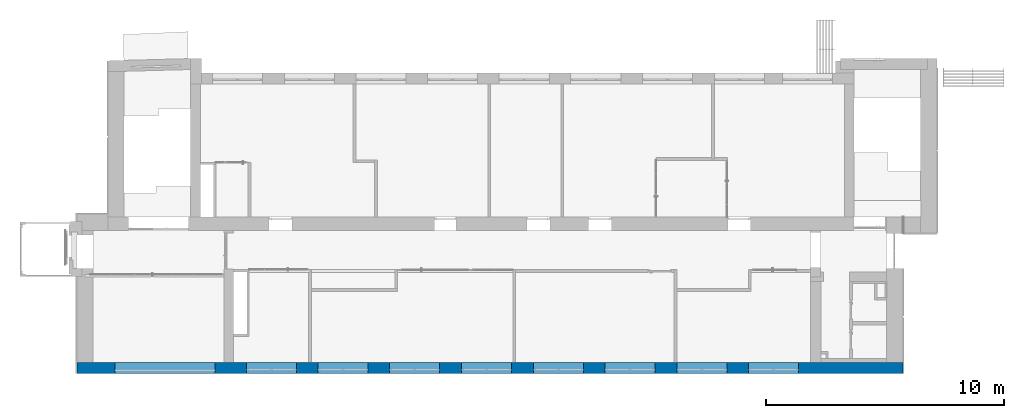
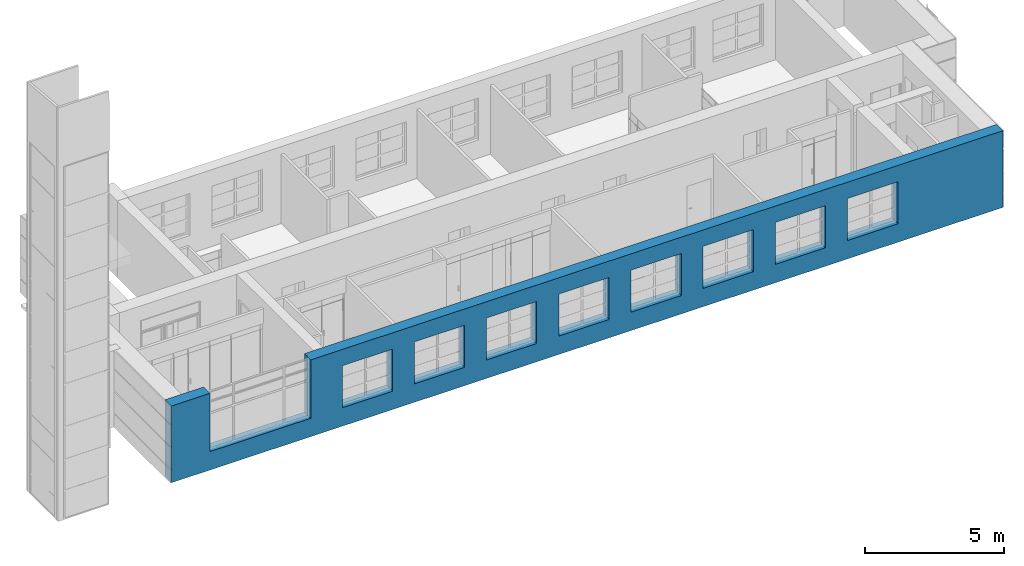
# One storey, part 46 of 66: 1 wall, 10 openings.
"""IFC2X3 building model written with IfcOpenShell, lengths in millimetres."""

from ifc_helpers import new_model, entity, si_unit, converted_unit, derived_unit, direction, frame, frame_2d, origin, origin_2d_with_axis, place, context, subcontext, project, spatial, rectangle, extrude, material, layer, layer_set, layer_usage, type_object, element, save


model = new_model("IFC2X3")

# Units and contexts
model_context = context("Model", 3, precision=0.01, world=origin(), true_north=direction((6.12303176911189e-17, 1.0)))
body_context = subcontext(model_context, "Body", "Model", "MODEL_VIEW")
ifc_project = project(units=[si_unit("LENGTHUNIT", "METRE", prefix="MILLI"), si_unit("AREAUNIT", "SQUARE_METRE"), si_unit("VOLUMEUNIT", "CUBIC_METRE"), converted_unit("PLANEANGLEUNIT", "DEGREE", entity("IfcRatioMeasure", 0.0174532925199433), si_unit("PLANEANGLEUNIT", "RADIAN"), dimensions=[0, 0, 0, 0, 0, 0, 0]), si_unit("MASSUNIT", "GRAM", prefix="KILO"), derived_unit("MASSDENSITYUNIT", [(si_unit("MASSUNIT", "GRAM", prefix="KILO"), 1), (si_unit("LENGTHUNIT", "METRE"), -3)]), si_unit("TIMEUNIT", "SECOND"), si_unit("FREQUENCYUNIT", "HERTZ"), si_unit("THERMODYNAMICTEMPERATUREUNIT", "DEGREE_CELSIUS"), derived_unit("THERMALTRANSMITTANCEUNIT", [(si_unit("MASSUNIT", "GRAM", prefix="KILO"), 1), (si_unit("THERMODYNAMICTEMPERATUREUNIT", "KELVIN"), -1), (si_unit("TIMEUNIT", "SECOND"), -3)]), derived_unit("VOLUMETRICFLOWRATEUNIT", [(si_unit("LENGTHUNIT", "METRE"), 3), (si_unit("TIMEUNIT", "SECOND"), -1)]), si_unit("ELECTRICCURRENTUNIT", "AMPERE"), si_unit("ELECTRICVOLTAGEUNIT", "VOLT"), si_unit("POWERUNIT", "WATT"), si_unit("FORCEUNIT", "NEWTON", prefix="KILO"), si_unit("ILLUMINANCEUNIT", "LUX"), si_unit("LUMINOUSFLUXUNIT", "LUMEN"), si_unit("LUMINOUSINTENSITYUNIT", "CANDELA"), derived_unit("USERDEFINED", [(si_unit("MASSUNIT", "GRAM", prefix="KILO"), -1), (si_unit("LENGTHUNIT", "METRE"), -2), (si_unit("TIMEUNIT", "SECOND"), 3), (si_unit("LUMINOUSFLUXUNIT", "LUMEN"), 1)]), derived_unit("LINEARVELOCITYUNIT", [(si_unit("LENGTHUNIT", "METRE"), 1), (si_unit("TIMEUNIT", "SECOND"), -1)]), si_unit("PRESSUREUNIT", "PASCAL"), derived_unit("USERDEFINED", [(si_unit("LENGTHUNIT", "METRE"), -2), (si_unit("MASSUNIT", "GRAM", prefix="KILO"), 1), (si_unit("TIMEUNIT", "SECOND"), -2)])], contexts=[model_context])

# Site, building, storey
site_placement = place(None, frame((-151.875543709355, 2715.0, 0.0)))
site = spatial("IfcSite", under=ifc_project, at=site_placement, Name="Surface", CompositionType="ELEMENT")
building_placement = place(site_placement, origin())
building = spatial("IfcBuilding", under=site, at=building_placement, CompositionType="ELEMENT")
storey_placement = place(building_placement, frame((0.0, 0.0, 3350.0)))
storey = spatial("IfcBuildingStorey", under=building, at=storey_placement, Name="2 korrus", CompositionType="ELEMENT", Elevation=3350.00000000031)

# Wall, openings
ifc_material_1 = material(Name="Brick, Common")
ifc_layer_1 = layer(ifc_material_1, 440.0)
ifc_material_2 = material(Name="__Kips GN13_tava")
ifc_layer_2 = layer(ifc_material_2, 20.0)
ifc_layer_set = layer_set([ifc_layer_1, ifc_layer_2], Name="Basic Wall:VS-1")
ifc_layer_usage = layer_usage(ifc_layer_set, "AXIS2", "NEGATIVE", 230.0)
wall_type = type_object("IfcWallType", Name="Basic Wall:VS-1", PredefinedType="STANDARD", material=ifc_layer_set)
wall_placement = place(storey_placement, frame((34420.6162682, 229.904632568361, 0.0), z_axis=(0.0, 0.0, 1.0), x_axis=(-1.0, 0.0, 0.0)))
wall = element("IfcWallStandardCase", 1, at=wall_placement, inside=storey, type_object=wall_type, material=ifc_layer_usage, Name="SEIN - 001", ObjectType="Basic Wall:VS-1", context=body_context, shape_type="SweptSolid", body=[
    extrude(rectangle(XDim=34639.7407226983, YDim=460.0, at=frame_2d((17319.8703613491, 0.0), x_axis=(-1.0, 0.0))), origin(), (0.0, 0.0, 1.0), 3380.43203354),
])
opening_1_placement = place(wall_placement, frame((34420.6162682, 229.904632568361, 0.0), z_axis=(0.0, 0.0, 1.0), x_axis=(-1.0, 0.0, 0.0)))
element("IfcOpeningElement", 2, at=opening_1_placement, cuts=wall, Name="SEIN - 001", ObjectType="Opening", context=body_context, shape_type="SweptSolid", body=[
    extrude(rectangle(XDim=2124.86776352, YDim=4200.0, at=frame_2d((2.27373675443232e-13, -5.6843418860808e-13), x_axis=(0.0, 1.0))), frame((3483.85381698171, 928.104632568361, 1872.43388175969), z_axis=(0.0, -1.0, 0.0), x_axis=(-1.0, 0.0, 0.0)), (0.0, 0.0, 1.0), 1393.8),
])
opening_2_placement = place(wall_placement, frame((34420.6162682, 229.904632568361, 0.0), z_axis=(0.0, 0.0, 1.0), x_axis=(-1.0, 0.0, 0.0)))
element("IfcOpeningElement", 3, at=opening_2_placement, cuts=wall, Name="SEIN - 001", ObjectType="Opening", context=body_context, shape_type="SweptSolid", body=[
    extrude(rectangle(XDim=445.564270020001, YDim=4200.0, at=origin_2d_with_axis()), frame((3483.85381698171, 928.104632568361, 3157.64989852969), z_axis=(0.0, -1.0, 0.0), x_axis=(0.0, 0.0, -1.0)), (0.0, 0.0, 1.0), 1393.8),
])
opening_3_placement = place(wall_placement, frame((34420.6162682, 229.904632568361, 0.0), z_axis=(0.0, 0.0, 1.0), x_axis=(-1.0, 0.0, 0.0)))
element("IfcOpeningElement", 4, at=opening_3_placement, cuts=wall, Name="SEIN - 001", ObjectType="Opening", context=body_context, shape_type="SweptSolid", body=[
    extrude(rectangle(XDim=1850.0, YDim=2100.0, at=frame_2d((-2.8421709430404e-13, 1.02318153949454e-12), x_axis=(1.0, 0.0))), frame((10949.5647264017, 927.804632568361, 1734.62869644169), z_axis=(0.0, -1.0, 0.0), x_axis=(0.0, 0.0, 1.0)), (0.0, 0.0, 1.0), 1393.8),
])
opening_4_placement = place(wall_placement, frame((34420.6162682, 229.904632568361, 0.0), z_axis=(0.0, 0.0, 1.0), x_axis=(-1.0, 0.0, 0.0)))
element("IfcOpeningElement", 5, at=opening_4_placement, cuts=wall, Name="SEIN - 001", ObjectType="Opening", context=body_context, shape_type="SweptSolid", body=[
    extrude(rectangle(XDim=1850.0, YDim=2100.0, at=frame_2d((-2.8421709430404e-13, 5.6843418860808e-13), x_axis=(1.0, 0.0))), frame((7949.56472636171, 927.804632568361, 1734.62869644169), z_axis=(0.0, -1.0, 0.0), x_axis=(0.0, 0.0, 1.0)), (0.0, 0.0, 1.0), 1393.8),
])
opening_5_placement = place(wall_placement, frame((34420.6162682, 229.904632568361, 0.0), z_axis=(0.0, 0.0, 1.0), x_axis=(-1.0, 0.0, 0.0)))
element("IfcOpeningElement", 6, at=opening_5_placement, cuts=wall, Name="SEIN - 001", ObjectType="Opening", context=body_context, shape_type="SweptSolid", body=[
    extrude(rectangle(XDim=1850.0, YDim=2100.0, at=frame_2d((-2.8421709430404e-13, 0.0), x_axis=(1.0, 0.0))), frame((13949.5647264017, 927.804632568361, 1734.62869644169), z_axis=(0.0, -1.0, 0.0), x_axis=(0.0, 0.0, 1.0)), (0.0, 0.0, 1.0), 1393.8),
])
opening_6_placement = place(wall_placement, frame((34420.6162682, 229.904632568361, 0.0), z_axis=(0.0, 0.0, 1.0), x_axis=(-1.0, 0.0, 0.0)))
element("IfcOpeningElement", 7, at=opening_6_placement, cuts=wall, Name="SEIN - 001", ObjectType="Opening", context=body_context, shape_type="SweptSolid", body=[
    extrude(rectangle(XDim=1850.0, YDim=2100.0, at=frame_2d((-2.8421709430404e-13, 1.02318153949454e-12), x_axis=(1.0, 0.0))), frame((16969.5647264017, 927.804632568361, 1734.62869644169), z_axis=(0.0, -1.0, 0.0), x_axis=(0.0, 0.0, 1.0)), (0.0, 0.0, 1.0), 1393.8),
])
opening_7_placement = place(wall_placement, frame((34420.6162682, 229.904632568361, 0.0), z_axis=(0.0, 0.0, 1.0), x_axis=(-1.0, 0.0, 0.0)))
element("IfcOpeningElement", 8, at=opening_7_placement, cuts=wall, Name="SEIN - 001", ObjectType="Opening", context=body_context, shape_type="SweptSolid", body=[
    extrude(rectangle(XDim=1850.0, YDim=2100.0, at=frame_2d((-2.8421709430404e-13, 0.0), x_axis=(1.0, 0.0))), frame((19979.5647264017, 927.804632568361, 1734.62869644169), z_axis=(0.0, -1.0, 0.0), x_axis=(0.0, 0.0, 1.0)), (0.0, 0.0, 1.0), 1393.8),
])
opening_8_placement = place(wall_placement, frame((34420.6162682, 229.904632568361, 0.0), z_axis=(0.0, 0.0, 1.0), x_axis=(-1.0, 0.0, 0.0)))
element("IfcOpeningElement", 9, at=opening_8_placement, cuts=wall, Name="SEIN - 001", ObjectType="Opening", context=body_context, shape_type="SweptSolid", body=[
    extrude(rectangle(XDim=1850.0, YDim=2100.0, at=frame_2d((-2.8421709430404e-13, 0.0), x_axis=(1.0, 0.0))), frame((22979.5647264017, 927.804632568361, 1734.62869644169), z_axis=(0.0, -1.0, 0.0), x_axis=(0.0, 0.0, 1.0)), (0.0, 0.0, 1.0), 1393.8),
])
opening_9_placement = place(wall_placement, frame((34420.6162682, 229.904632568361, 0.0), z_axis=(0.0, 0.0, 1.0), x_axis=(-1.0, 0.0, 0.0)))
element("IfcOpeningElement", 10, at=opening_9_placement, cuts=wall, Name="SEIN - 001", ObjectType="Opening", context=body_context, shape_type="SweptSolid", body=[
    extrude(rectangle(XDim=1850.0, YDim=2100.0, at=frame_2d((-2.8421709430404e-13, 0.0), x_axis=(1.0, 0.0))), frame((25989.5647264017, 927.804632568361, 1734.62869644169), z_axis=(0.0, -1.0, 0.0), x_axis=(0.0, 0.0, 1.0)), (0.0, 0.0, 1.0), 1393.8),
])
opening_10_placement = place(wall_placement, frame((34420.6162682, 229.904632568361, 0.0), z_axis=(0.0, 0.0, 1.0), x_axis=(-1.0, 0.0, 0.0)))
element("IfcOpeningElement", 11, at=opening_10_placement, cuts=wall, Name="SEIN - 001", ObjectType="Opening", context=body_context, shape_type="SweptSolid", body=[
    extrude(rectangle(XDim=1850.0, YDim=2100.0, at=frame_2d((-2.8421709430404e-13, 0.0), x_axis=(1.0, 0.0))), frame((28999.5647264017, 927.804632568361, 1734.62869644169), z_axis=(0.0, -1.0, 0.0), x_axis=(0.0, 0.0, 1.0)), (0.0, 0.0, 1.0), 1393.8),
])

save(model, "model.ifc")
